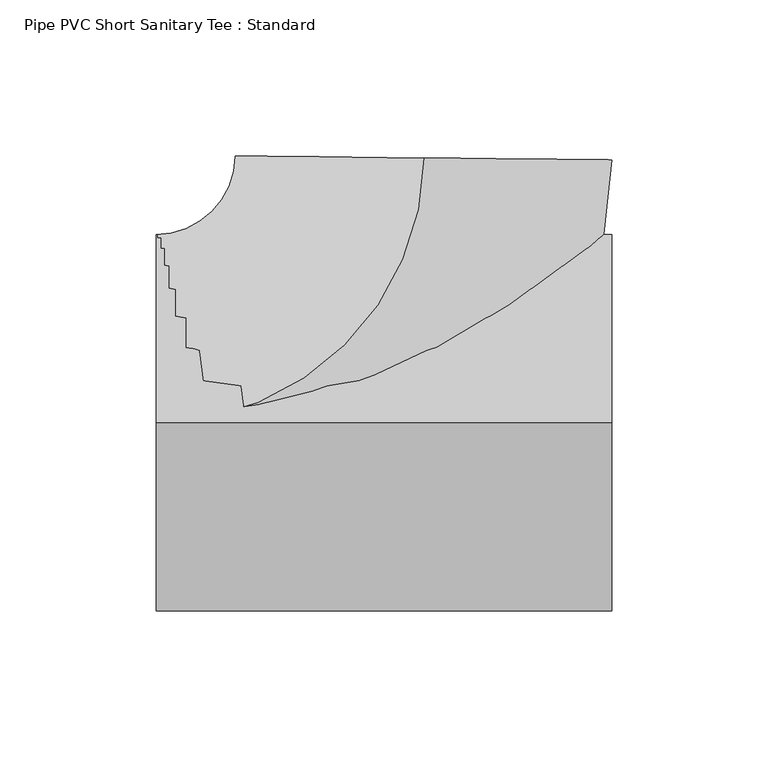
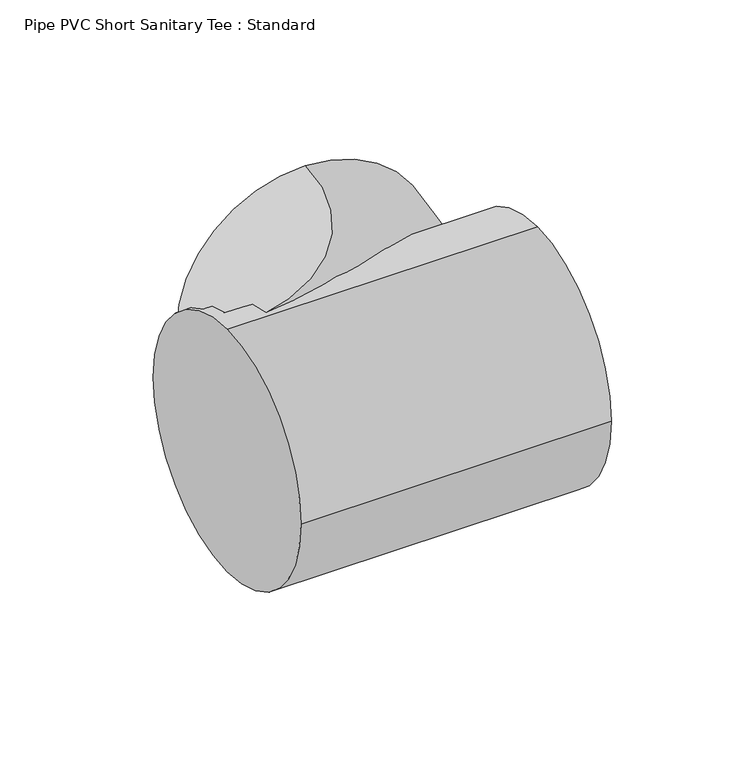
"""IFC4 building model written with IfcOpenShell, lengths in millimetres: pipe fitting geometry, Pipe PVC Short Sanitary Tee : Standard."""

from ifc_helpers import new_model, si_unit, point, frame, origin, origin_2d, place, context, project, spatial, circle_curve, ellipse_curve, trimmed, segment, composite_curve, outline, extrude, source, transform, mapped, element, save
from ifc_brep_helpers import plane_surface, revolved_surface, advanced_brep


def pipe_pvc_short_sanitary_tee_standard_892dad59(model_context):
    return source(origin(), model_context, "Body", "SolidModel", [
        extrude(outline(composite_curve([segment(trimmed(circle_curve(origin_2d(), 60.325), [point((0.0, 60.325))], [point((60.325, 0.0))], False, "CARTESIAN"), True, "CONTINUOUS"), segment(trimmed(circle_curve(origin_2d(), 60.325), [point((60.325, 0.0))], [point((0.0, -60.325))], False, "CARTESIAN"), True, "CONTINUOUS"), segment(trimmed(circle_curve(origin_2d(), 60.325), [point((0.0, -60.325))], [point((-60.325, 0.0))], False, "CARTESIAN"), True, "CONTINUOUS"), segment(trimmed(circle_curve(origin_2d(), 60.325), [point((-60.325, 0.0))], [point((0.0, 60.325))], False, "CARTESIAN"), True, "CONTINUOUS")], self_intersect=False)), frame((-84.836682, 0.0, 0.0), z_axis=(1.0, 0.0, 0.0), x_axis=(0.0, 1.0, 0.0)), (0.0, 0.0, 1.0), 146.0453495),
        advanced_brep(
        [(-84.836682, 0.0, 60.325), (-84.836682, 60.325, 0.0), (-84.836682, 0.0, -60.325), (-84.836682, -60.325, 0.0), (0.8836675, 84.8320797, 60.325), (61.2053949, 84.2037284, 0.0), (0.8836675, 84.8320797, -60.325), (-59.4380599, 85.460431, 0.0)],
        [
            (0, 1, circle_curve(frame((-84.836682, 0.0, 0.0), z_axis=(-1.0, 0.0, 0.0), x_axis=(0.0, 1.0, 0.0)), 60.325)),
            (1, 2, circle_curve(frame((-84.836682, 0.0, 0.0), z_axis=(-1.0, 0.0, 0.0), x_axis=(0.0, 1.0, 0.0)), 60.325)),
            (2, 3, circle_curve(frame((-84.836682, 0.0, 0.0), z_axis=(-1.0, 0.0, 0.0), x_axis=(0.0, 1.0, 0.0)), 60.325)),
            (3, 0, circle_curve(frame((-84.836682, 0.0, 0.0), z_axis=(-1.0, 0.0, 0.0), x_axis=(0.0, 1.0, 0.0)), 60.325)),
            (4, 5, circle_curve(frame((0.8836675, 84.8320797, 0.0), z_axis=(0.010416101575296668, 0.9999457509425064, 0.0), x_axis=(-0.9999457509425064, 0.010416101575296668, 0.0)), 60.325)),
            (5, 6, circle_curve(frame((0.8836675, 84.8320797, 0.0), z_axis=(0.010416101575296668, 0.9999457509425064, 0.0), x_axis=(-0.9999457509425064, 0.010416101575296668, 0.0)), 60.325)),
            (6, 7, circle_curve(frame((0.8836675, 84.8320797, 0.0), z_axis=(0.010416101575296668, 0.9999457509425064, 0.0), x_axis=(-0.9999457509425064, 0.010416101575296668, 0.0)), 60.325)),
            (7, 4, circle_curve(frame((0.8836675, 84.8320797, 0.0), z_axis=(0.010416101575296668, 0.9999457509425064, 0.0), x_axis=(-0.9999457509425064, 0.010416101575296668, 0.0)), 60.325)),
            (7, 1, circle_curve(frame((-84.836682, 85.725, 0.0), z_axis=(0.0, 0.0, -1.0), x_axis=(0.0, -1.0, 0.0)), 25.4)),
            (0, 4, circle_curve(frame((-84.836682, 85.725, 60.325), z_axis=(0.0, 0.0, 1.0), x_axis=(0.0, -1.0, 0.0)), 85.725)),
            (6, 2, circle_curve(frame((-84.836682, 85.725, -60.325), z_axis=(0.0, 0.0, -1.0), x_axis=(0.0, -1.0, 0.0)), 85.725)),
            (5, 3, circle_curve(frame((-84.836682, 85.725, 0.0), z_axis=(0.0, 0.0, -1.0), x_axis=(0.0, -1.0, 0.0)), 146.05)),
        ],
        [
            plane_surface(frame((-84.836682, 0.0, 0.0), z_axis=(-1.0, 0.0, 0.0), x_axis=(0.0, 0.0, 1.0))),
            plane_surface(frame((0.8836675, 84.8320797, 0.0), z_axis=(0.010416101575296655, 0.9999457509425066, 0.0), x_axis=(0.0, 0.0, 1.0))),
            revolved_surface(trimmed(ellipse_curve(frame((-84.836682, 0.0, 0.0), z_axis=(-1.0, 0.0, 0.0), x_axis=(0.0, 1.0, 0.0)), 60.325, 60.325), [point((-84.836682, 0.0, 60.325))], [point((-84.836682, 60.325, 0.0))], True, "CARTESIAN"), (-84.836682, 85.725, 0.0), (0.0, 0.0, 1.0)),
            revolved_surface(trimmed(ellipse_curve(frame((-84.836682, 0.0, 0.0), z_axis=(-1.0, 0.0, 0.0), x_axis=(0.0, 1.0, 0.0)), 60.325, 60.325), [point((-84.836682, 60.325, 0.0))], [point((-84.836682, 0.0, -60.325))], True, "CARTESIAN"), (-84.836682, 85.725, 0.0), (0.0, 0.0, 1.0)),
            revolved_surface(trimmed(ellipse_curve(frame((-84.836682, 0.0, 0.0), z_axis=(-1.0, 0.0, 0.0), x_axis=(0.0, 1.0, 0.0)), 60.325, 60.325), [point((-84.836682, 0.0, -60.325))], [point((-84.836682, -60.325, 0.0))], True, "CARTESIAN"), (-84.836682, 85.725, 0.0), (0.0, 0.0, 1.0)),
            revolved_surface(trimmed(ellipse_curve(frame((-84.836682, 0.0, 0.0), z_axis=(-1.0, 0.0, 0.0), x_axis=(0.0, 1.0, 0.0)), 60.325, 60.325), [point((-84.836682, -60.325, 0.0))], [point((-84.836682, 0.0, 60.325))], True, "CARTESIAN"), (-84.836682, 85.725, 0.0), (0.0, 0.0, 1.0)),
        ],
        [
            (0, [[1, 2, 3, 4]]),
            (1, [[5, 6, 7, 8]]),
            (2, [[9, -1, 10, -8]]),
            (3, [[11, -2, -9, -7]]),
            (4, [[12, -3, -11, -6]]),
            (5, [[-10, -4, -12, -5]]),
        ],
    ),
        advanced_brep(
        [(-84.836682, 0.0, 60.325), (-84.836682, 60.325, 0.0), (-84.836682, 0.0, -60.325), (-84.836682, -60.325, 0.0), (0.8836675, 84.8320797, 60.325), (61.2053949, 84.2037284, 0.0), (0.8836675, 84.8320797, -60.325), (-59.4380599, 85.460431, 0.0)],
        [
            (0, 1, circle_curve(frame((-84.836682, 0.0, 0.0), z_axis=(-1.0, 0.0, 0.0), x_axis=(0.0, 1.0, 0.0)), 60.325)),
            (1, 2, circle_curve(frame((-84.836682, 0.0, 0.0), z_axis=(-1.0, 0.0, 0.0), x_axis=(0.0, 1.0, 0.0)), 60.325)),
            (2, 3, circle_curve(frame((-84.836682, 0.0, 0.0), z_axis=(-1.0, 0.0, 0.0), x_axis=(0.0, 1.0, 0.0)), 60.325)),
            (3, 0, circle_curve(frame((-84.836682, 0.0, 0.0), z_axis=(-1.0, 0.0, 0.0), x_axis=(0.0, 1.0, 0.0)), 60.325)),
            (4, 5, circle_curve(frame((0.8836675, 84.8320797, 0.0), z_axis=(0.010416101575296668, 0.9999457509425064, 0.0), x_axis=(-0.9999457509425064, 0.010416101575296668, 0.0)), 60.325)),
            (5, 6, circle_curve(frame((0.8836675, 84.8320797, 0.0), z_axis=(0.010416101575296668, 0.9999457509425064, 0.0), x_axis=(-0.9999457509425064, 0.010416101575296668, 0.0)), 60.325)),
            (6, 7, circle_curve(frame((0.8836675, 84.8320797, 0.0), z_axis=(0.010416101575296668, 0.9999457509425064, 0.0), x_axis=(-0.9999457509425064, 0.010416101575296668, 0.0)), 60.325)),
            (7, 4, circle_curve(frame((0.8836675, 84.8320797, 0.0), z_axis=(0.010416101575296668, 0.9999457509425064, 0.0), x_axis=(-0.9999457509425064, 0.010416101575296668, 0.0)), 60.325)),
            (7, 1, circle_curve(frame((-84.836682, 85.725, 0.0), z_axis=(0.0, 0.0, -1.0), x_axis=(0.0, -1.0, 0.0)), 25.4)),
            (0, 4, circle_curve(frame((-84.836682, 85.725, 60.325), z_axis=(0.0, 0.0, 1.0), x_axis=(0.0, -1.0, 0.0)), 85.725)),
            (6, 2, circle_curve(frame((-84.836682, 85.725, -60.325), z_axis=(0.0, 0.0, -1.0), x_axis=(0.0, -1.0, 0.0)), 85.725)),
            (5, 3, circle_curve(frame((-84.836682, 85.725, 0.0), z_axis=(0.0, 0.0, -1.0), x_axis=(0.0, -1.0, 0.0)), 146.05)),
        ],
        [
            plane_surface(frame((-84.836682, 0.0, 0.0), z_axis=(-1.0, 0.0, 0.0), x_axis=(0.0, 0.0, 1.0))),
            plane_surface(frame((0.8836675, 84.8320797, 0.0), z_axis=(0.010416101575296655, 0.9999457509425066, 0.0), x_axis=(0.0, 0.0, 1.0))),
            revolved_surface(trimmed(ellipse_curve(frame((-84.836682, 0.0, 0.0), z_axis=(-1.0, 0.0, 0.0), x_axis=(0.0, 1.0, 0.0)), 60.325, 60.325), [point((-84.836682, 0.0, 60.325))], [point((-84.836682, 60.325, 0.0))], True, "CARTESIAN"), (-84.836682, 85.725, 0.0), (0.0, 0.0, 1.0)),
            revolved_surface(trimmed(ellipse_curve(frame((-84.836682, 0.0, 0.0), z_axis=(-1.0, 0.0, 0.0), x_axis=(0.0, 1.0, 0.0)), 60.325, 60.325), [point((-84.836682, 60.325, 0.0))], [point((-84.836682, 0.0, -60.325))], True, "CARTESIAN"), (-84.836682, 85.725, 0.0), (0.0, 0.0, 1.0)),
            revolved_surface(trimmed(ellipse_curve(frame((-84.836682, 0.0, 0.0), z_axis=(-1.0, 0.0, 0.0), x_axis=(0.0, 1.0, 0.0)), 60.325, 60.325), [point((-84.836682, 0.0, -60.325))], [point((-84.836682, -60.325, 0.0))], True, "CARTESIAN"), (-84.836682, 85.725, 0.0), (0.0, 0.0, 1.0)),
            revolved_surface(trimmed(ellipse_curve(frame((-84.836682, 0.0, 0.0), z_axis=(-1.0, 0.0, 0.0), x_axis=(0.0, 1.0, 0.0)), 60.325, 60.325), [point((-84.836682, -60.325, 0.0))], [point((-84.836682, 0.0, 60.325))], True, "CARTESIAN"), (-84.836682, 85.725, 0.0), (0.0, 0.0, 1.0)),
        ],
        [
            (0, [[1, 2, 3, 4]]),
            (1, [[5, 6, 7, 8]]),
            (2, [[9, -1, 10, -8]]),
            (3, [[11, -2, -9, -7]]),
            (4, [[12, -3, -11, -6]]),
            (5, [[-10, -4, -12, -5]]),
        ],
    ),
        extrude(outline(composite_curve([segment(trimmed(circle_curve(origin_2d(), 60.325), [point((0.0, 60.325))], [point((60.325, 0.0))], False, "CARTESIAN"), True, "CONTINUOUS"), segment(trimmed(circle_curve(origin_2d(), 60.325), [point((60.325, 0.0))], [point((0.0, -60.325))], False, "CARTESIAN"), True, "CONTINUOUS"), segment(trimmed(circle_curve(origin_2d(), 60.325), [point((0.0, -60.325))], [point((-60.325, 0.0))], False, "CARTESIAN"), True, "CONTINUOUS"), segment(trimmed(circle_curve(origin_2d(), 60.325), [point((-60.325, 0.0))], [point((0.0, 60.325))], False, "CARTESIAN"), True, "CONTINUOUS")], self_intersect=False)), frame((-84.836682, 0.0, 0.0), z_axis=(1.0, 0.0, 0.0), x_axis=(0.0, 1.0, 0.0)), (0.0, 0.0, 1.0), 146.0453495),
    ])


if __name__ == "__main__":
    model = new_model("IFC4")
    model_context = context("Model", 3, world=origin())
    ifc_project = project(units=[si_unit("LENGTHUNIT", "METRE", prefix="MILLI")], contexts=[model_context])
    site = spatial("IfcSite", under=ifc_project)
    building = spatial("IfcBuilding", under=site)
    placement = place(None, origin())
    pipe_pvc_short_sanitary_tee_standard_shape = pipe_pvc_short_sanitary_tee_standard_892dad59(model_context)
    element("IfcPipeFitting", 1, ObjectType="Pipe PVC Short Sanitary Tee : Standard", at=placement, inside=building, context=model_context, shape_type="MappedRepresentation", body=[
        mapped(pipe_pvc_short_sanitary_tee_standard_shape, transform((0.0, 0.0, 0.0), x_axis=(1.0, 0.0, 0.0), y_axis=(0.0, 1.0, 0.0), z_axis=(0.0, 0.0, 1.0))),
    ])
    save(model, "model.ifc")
